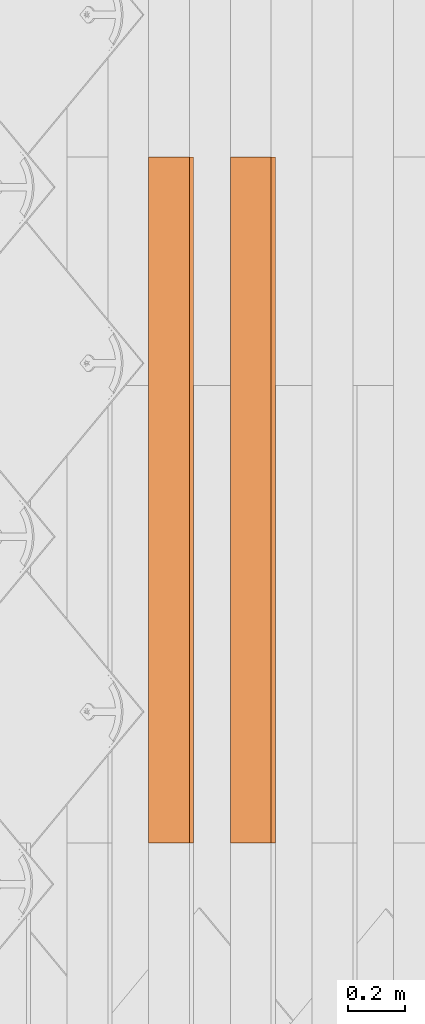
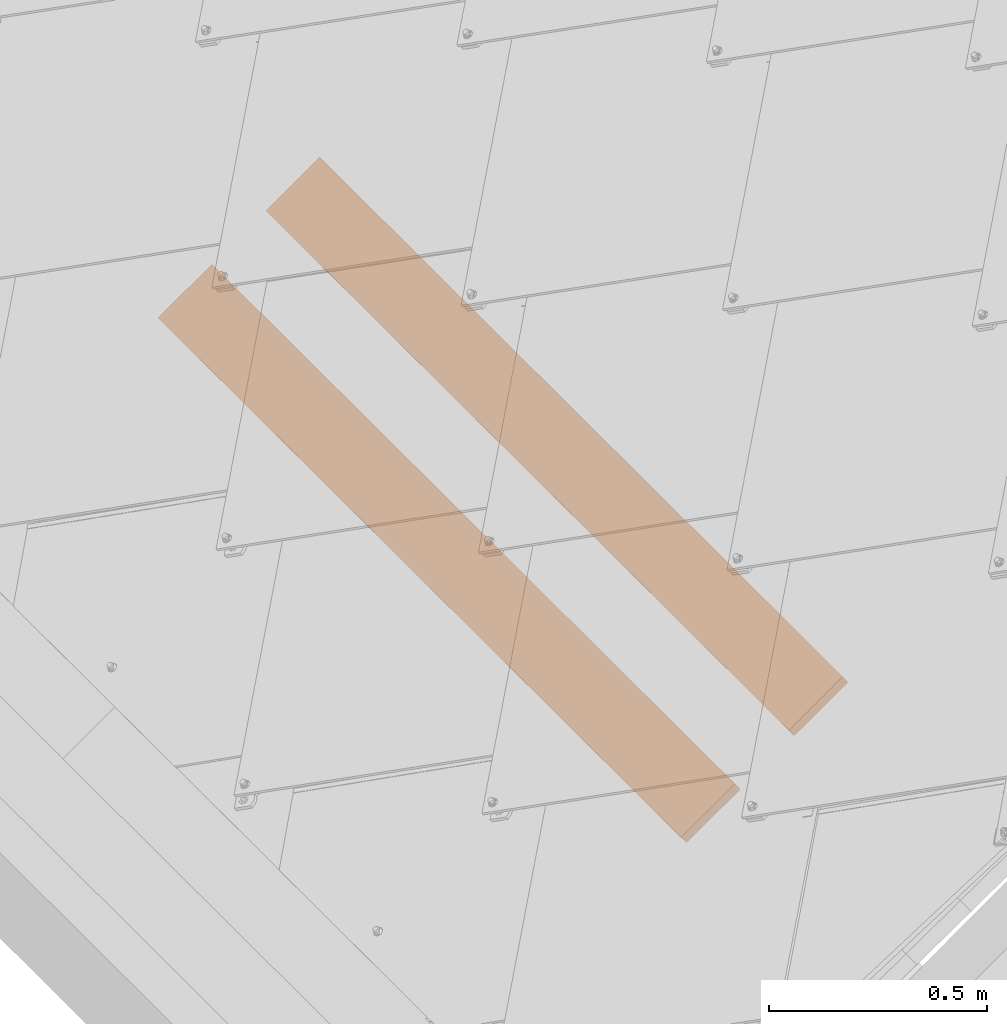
# One storey, part 21 of 133: 2 proxies, 1 element without a shape of its own.
"""IFC2X3 building model written with IfcOpenShell, lengths in millimetres."""

from ifc_helpers import new_model, entity, si_unit, converted_unit, derived_unit, direction, frame, frame_2d, origin, place, context, subcontext, project, spatial, rectangle, extrude, source, transform, mapped, material, type_object, type_shapes, element, aggregate, save


model = new_model("IFC2X3")

# Units and contexts
model_context = context("Model", 3, precision=0.01, world=origin(), true_north=direction((6.12303176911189e-17, 1.0)))
body_context = subcontext(model_context, "Body", "Model", "MODEL_VIEW")
ifc_project = project(units=[si_unit("LENGTHUNIT", "METRE", prefix="MILLI"), si_unit("AREAUNIT", "SQUARE_METRE"), si_unit("VOLUMEUNIT", "CUBIC_METRE"), converted_unit("PLANEANGLEUNIT", "DEGREE", entity("IfcRatioMeasure", 0.0174532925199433), si_unit("PLANEANGLEUNIT", "RADIAN"), dimensions=[0, 0, 0, 0, 0, 0, 0]), si_unit("MASSUNIT", "GRAM", prefix="KILO"), derived_unit("MASSDENSITYUNIT", [(si_unit("MASSUNIT", "GRAM", prefix="KILO"), 1), (si_unit("LENGTHUNIT", "METRE"), -3)]), si_unit("TIMEUNIT", "SECOND"), si_unit("FREQUENCYUNIT", "HERTZ"), si_unit("THERMODYNAMICTEMPERATUREUNIT", "DEGREE_CELSIUS"), derived_unit("THERMALTRANSMITTANCEUNIT", [(si_unit("MASSUNIT", "GRAM", prefix="KILO"), 1), (si_unit("THERMODYNAMICTEMPERATUREUNIT", "KELVIN"), -1), (si_unit("TIMEUNIT", "SECOND"), -3)]), derived_unit("VOLUMETRICFLOWRATEUNIT", [(si_unit("LENGTHUNIT", "METRE"), 3), (si_unit("TIMEUNIT", "SECOND"), -1)]), si_unit("ELECTRICCURRENTUNIT", "AMPERE"), si_unit("ELECTRICVOLTAGEUNIT", "VOLT"), si_unit("POWERUNIT", "WATT"), si_unit("FORCEUNIT", "NEWTON", prefix="KILO"), si_unit("ILLUMINANCEUNIT", "LUX"), si_unit("LUMINOUSFLUXUNIT", "LUMEN"), si_unit("LUMINOUSINTENSITYUNIT", "CANDELA"), derived_unit("USERDEFINED", [(si_unit("MASSUNIT", "GRAM", prefix="KILO"), -1), (si_unit("LENGTHUNIT", "METRE"), -2), (si_unit("TIMEUNIT", "SECOND"), 3), (si_unit("LUMINOUSFLUXUNIT", "LUMEN"), 1)]), derived_unit("LINEARVELOCITYUNIT", [(si_unit("LENGTHUNIT", "METRE"), 1), (si_unit("TIMEUNIT", "SECOND"), -1)]), si_unit("PRESSUREUNIT", "PASCAL"), derived_unit("USERDEFINED", [(si_unit("LENGTHUNIT", "METRE"), -2), (si_unit("MASSUNIT", "GRAM", prefix="KILO"), 1), (si_unit("TIMEUNIT", "SECOND"), -2)])], contexts=[model_context])

# Site, building, storey
site_placement = place(None, origin())
site = spatial("IfcSite", under=ifc_project, at=site_placement, Name="Default", CompositionType="ELEMENT")
building_placement = place(site_placement, origin())
building = spatial("IfcBuilding", under=site, at=building_placement, CompositionType="ELEMENT")
storey_placement = place(building_placement, origin())
storey = spatial("IfcBuildingStorey", under=building, at=storey_placement, Name="Level 1", CompositionType="ELEMENT", Elevation=0.0)

# Assembly, proxies
assembly_placement = place(storey_placement, origin())
assembly = element("IfcElementAssembly", 1, at=assembly_placement, inside=storey, Name="Structural Framing Assembly:Roof Construction Assembly", ObjectType="Structural Framing Assembly:Roof Construction Assembly", AssemblyPlace="NOTDEFINED", PredefinedType="USERDEFINED")
ifc_material = material(Name="Wood - Generic - Wood For Showcase")
building_element_proxy_type_1 = type_object("IfcBuildingElementProxyType", Name="Structural Framing 15", PredefinedType="NOTDEFINED", material=ifc_material)
shared_shape_1 = source(origin(), body_context, "Body", "SweptSolid", [
    extrude(rectangle(XDim=24.9999999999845, YDim=174.344679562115, at=frame_2d((-1.77635683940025e-13, -4.54747350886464e-13), x_axis=(0.0, 1.0))), frame((1128.20180147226, 1525.55080214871, 2760.23940055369), z_axis=(0.0, 1.0, 0.0), x_axis=(-0.819152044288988, 0.0, -0.573576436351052)), (0.0, 0.0, 1.0), 2400.0),
])
type_shapes(building_element_proxy_type_1, [shared_shape_1])
proxy_1_placement = place(assembly_placement, frame((-2570.66641213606, -7270.0, -1800.0)))
proxy_1 = element("IfcBuildingElementProxy", 2, at=proxy_1_placement, type_object=building_element_proxy_type_1, material=ifc_material, Name="Structural Framing 108:Structural Framing 15", ObjectType="Structural Framing 108:Structural Framing 15", context=body_context, shape_type="MappedRepresentation", body=[
    mapped(shared_shape_1, transform((0.0, 0.0, 0.0), scale=1.0)),
])
building_element_proxy_type_2 = type_object("IfcBuildingElementProxyType", Name="Structural Framing 15", PredefinedType="NOTDEFINED", material=ifc_material)
shared_shape_2 = source(origin(), body_context, "Body", "SweptSolid", [
    extrude(rectangle(XDim=24.9999999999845, YDim=174.344679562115, at=frame_2d((-1.77635683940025e-13, -4.54747350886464e-13), x_axis=(0.0, 1.0))), frame((1128.20180147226, 1525.55080214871, 2760.23940055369), z_axis=(0.0, 1.0, 0.0), x_axis=(-0.819152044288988, 0.0, -0.573576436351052)), (0.0, 0.0, 1.0), 2400.0),
])
type_shapes(building_element_proxy_type_2, [shared_shape_2])
proxy_2_placement = place(assembly_placement, frame((-2856.29601348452, -7270.0, -2000.0)))
proxy_2 = element("IfcBuildingElementProxy", 3, at=proxy_2_placement, type_object=building_element_proxy_type_2, material=ifc_material, Name="Structural Framing 118:Structural Framing 15", ObjectType="Structural Framing 118:Structural Framing 15", context=body_context, shape_type="MappedRepresentation", body=[
    mapped(shared_shape_2, transform((0.0, 0.0, 0.0), scale=1.0)),
])
aggregate(assembly, [proxy_1, proxy_2])

save(model, "model.ifc")
